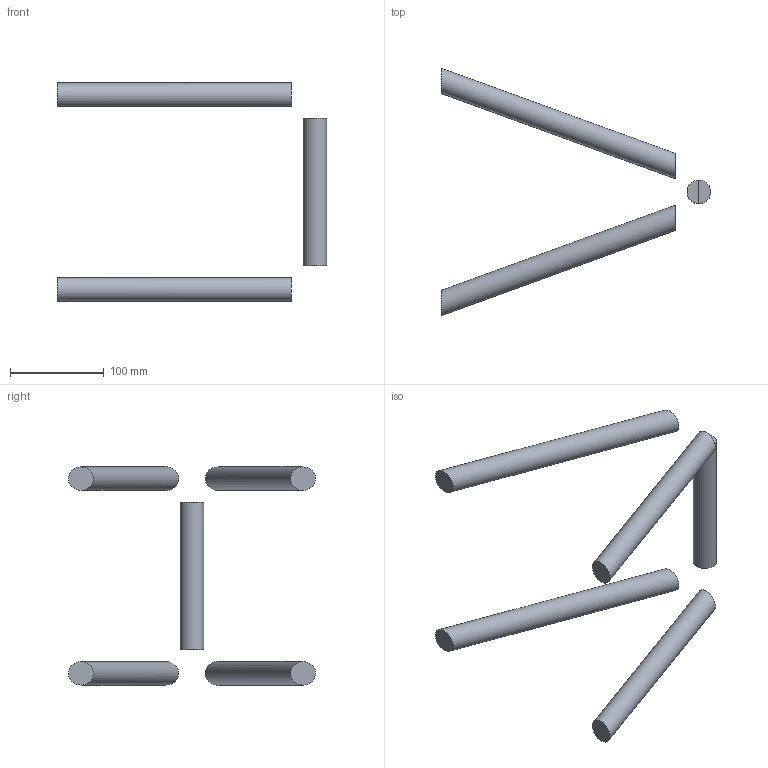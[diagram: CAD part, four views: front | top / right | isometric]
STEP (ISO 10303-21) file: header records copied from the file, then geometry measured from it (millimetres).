
FILE_DESCRIPTION(/* description */ (''),/* implementation_level */ '2;1');
FILE_NAME(/* name */ 'M:\Symbolen_NIEUW\STP\Corners\S36R\S36R-C007_111100010.stp',/* time_stamp */ '2017-11-30T14:00:49+01:00',/* author */ ('Kees'),/* organization */ (''),/* preprocessor_version */ 'ST-DEVELOPER v16.13',/* originating_system */ 'Autodesk Inventor 2018',/* authorisation */ '');
FILE_SCHEMA (('AUTOMOTIVE_DESIGN { 1 0 10303 214 3 1 1 }'));
Length unit declared in the file: millimetre
Products named in the file (1): 260031231
Bounding box: 286.5 x 262.81 x 231.97 mm (x, y, z)
Volume: 597354.4 mm3; surface area: 100737.5 mm2
Topology: 5 solids, 5 shells, 17 faces, 23 edges, 16 vertices
Faces by surface type: plane 12, cylinder 5
Full cylindrical faces by diameter (mm): 25 x5
Entity records: 371 total; most frequent: DIRECTION 62, CARTESIAN_POINT 44, AXIS2_PLACEMENT_3D 30, ORIENTED_EDGE 28, EDGE_LOOP 22, STYLED_ITEM 22, FACE_OUTER_BOUND 17, ADVANCED_FACE 17
